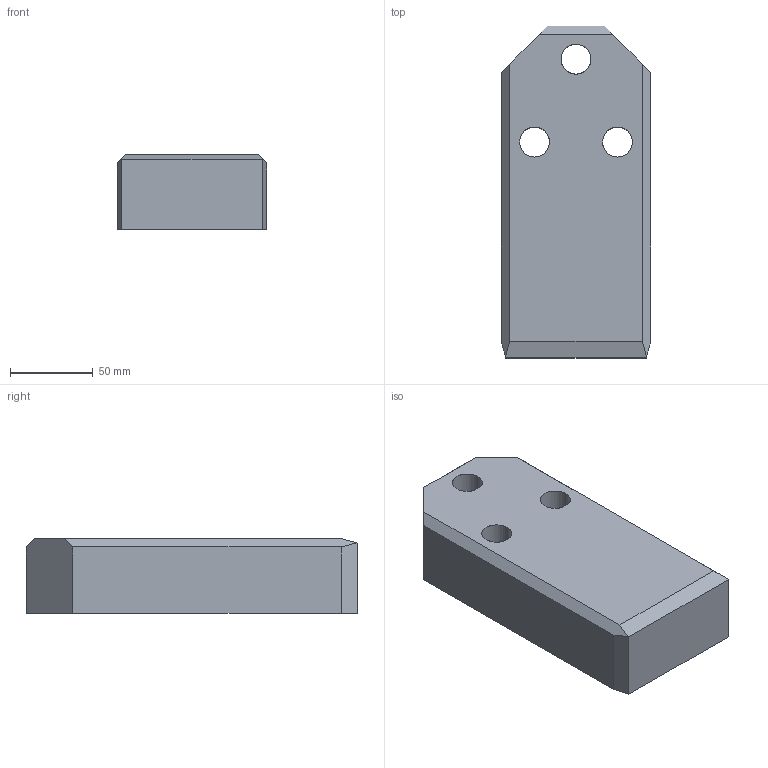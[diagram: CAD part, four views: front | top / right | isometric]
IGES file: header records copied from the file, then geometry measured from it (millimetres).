
Start section: START RECORD GO HERE.
Global section: file name: A927-90X200X45.igs; native system: DASSAULT SYSTEMES CATIA V5 R20 - www.3ds.com; preprocessor: CATIA Version 5 Release 20 ; author: Utente; organization: NB04-ASUS; date: 20200408.202547; units: millimetre
Bounding box: 90 x 200 x 45 mm (x, y, z)
Surface area: 64859.1 mm2 (no closed solid volume)
Topology: 0 solids, 0 shells, 35 faces, 168 edges, 168 vertices
Faces by surface type: revolution 18, extrusion 17
